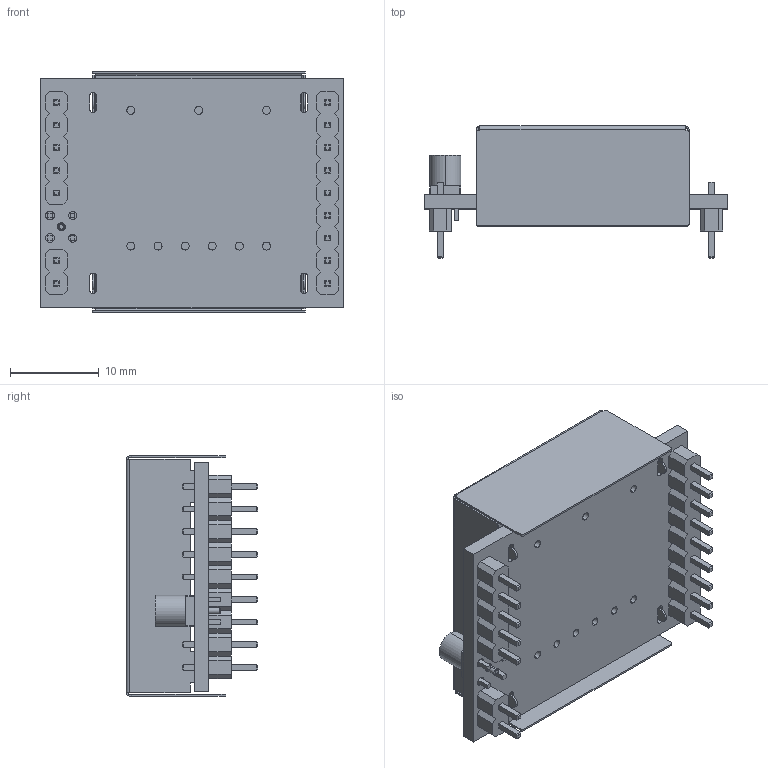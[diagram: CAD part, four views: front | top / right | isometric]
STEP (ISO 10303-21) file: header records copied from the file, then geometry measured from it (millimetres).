
FILE_DESCRIPTION( (''), '2;1');
FILE_NAME ('GF-8802_3D_DATA.stp','2019-09-19T13:07:02',(''),(''),'spGate 15.6.6','','');
FILE_SCHEMA (('AUTOMOTIVE_DESIGN'));
Length unit declared in the file: millimetre
Products named in the file (7): Assembly; GF-8802_3D_DATA-prt0; GF-8802_3D_DATA-prt1; GF-8802_3D_DATA-prt2; GF-8802_3D_DATA-prt3; GF-8802_3D_DATA-prt4; GF-8802_3D_DATA-prt5
Assembly tree (6 placements, depth 2):
  Assembly
    GF-8802_3D_DATA-prt0
    GF-8802_3D_DATA-prt1
    GF-8802_3D_DATA-prt2
    GF-8802_3D_DATA-prt3
    GF-8802_3D_DATA-prt4
    GF-8802_3D_DATA-prt5
Bounding box: 34 x 14.8 x 27 mm (x, y, z)
Volume: 1975.2 mm3; surface area: 6014.7 mm2
Topology: 6 solids, 6 shells, 606 faces, 1518 edges, 964 vertices
Faces by surface type: plane 506, cylinder 98, bspline 2
Entity records: 30348 total; most frequent: CARTESIAN_POINT 3192, ORIENTED_EDGE 3036, DIRECTION 2882, COLOUR_RGB 2130, PRESENTATION_STYLE_ASSIGNMENT 2130, STYLED_ITEM 2130, EDGE_CURVE 1518, DRAUGHTING_PRE_DEFINED_CURVE_FONT 1518
